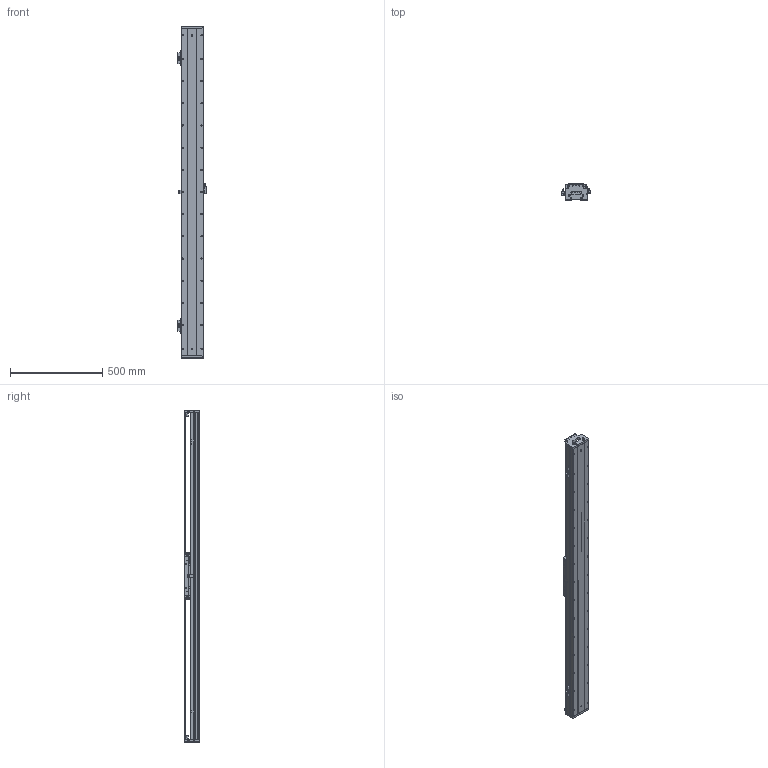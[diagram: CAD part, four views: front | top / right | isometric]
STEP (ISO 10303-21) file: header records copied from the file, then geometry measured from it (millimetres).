
FILE_DESCRIPTION (( 'STEP AP203' ), '1' );
FILE_NAME ('DKW120-B3-W060（T1440-L005-0.2）.STEP', '2021-09-02T08:25:19', ( '微软用户' ), ( '微软中国' ), 'SwSTEP 2.0', 'SolidWorks 2018', '' );
FILE_SCHEMA (( 'CONFIG_CONTROL_DESIGN' ));
Length unit declared in the file: millimetre
Products named in the file (20): EE_SX674A; DKW120 单轴模组-拉钢带组件; MSB15-DG-U; B3-W060_00; BKMA01-W060-TRL280; 06652-0001-001-00 DKW120傷啣; DKW120-B3-W060（T1440-L005-0.2）; RUS嫖掑喜; 06652-0001-004-00 DKW120嶺輸菜輸; Ru2; DKW-HXJ-JY-00 遣喳砎蝶; RUS嫖掑郪璃; 10940-0001-004-00 120詩湍裔啣; DKW119-RU-DTJ-00 RU2黍杅芛盓殤; 砎蝶猾沭; 10980-0001-003-00 嫖萇羲壽嘐隅釱; 12160-0000-003-00 DKW120詩湍嶺輸; DKW-SG-GYP-H-00 嫖萇覜茼え; 12160-0000-004-00  DKW120詩湍揤輸; DKW120-B15-T300-DZ-00 菁釱
Assembly tree (33 placements, depth 3):
  DKW120-B3-W060（T1440-L005-0.2）
    DKW120-B15-T300-DZ-00 菁釱
    MSB15-DG-U  x2
    DKW120 单轴模组-拉钢带组件
      06652-0001-001-00 DKW120傷啣  x2
      06652-0001-004-00 DKW120嶺輸菜輸  x4
      DKW-HXJ-JY-00 遣喳砎蝶  x4
      10940-0001-004-00 120詩湍裔啣
      砎蝶猾沭  x2
      12160-0000-003-00 DKW120詩湍嶺輸  x2
      12160-0000-004-00  DKW120詩湍揤輸  x2
    BKMA01-W060-TRL280
    RUS嫖掑郪璃
      RUS嫖掑喜
      Ru2
    DKW119-RU-DTJ-00 RU2黍杅芛盓殤
    10980-0001-003-00 嫖萇羲壽嘐隅釱  x2
    DKW-SG-GYP-H-00 嫖萇覜茼え
    EE_SX674A  x3
    B3-W060_00
Bounding box: 154.1 x 84 x 1796 mm (x, y, z)
Volume: 6481918 mm3; surface area: 2518459 mm2
Topology: 41 solids, 90 shells, 4200 faces, 11508 edges, 7405 vertices
Faces by surface type: plane 2227, cylinder 1378, cone 348, bspline 247
Entity records: 134938 total; most frequent: CARTESIAN_POINT 47005, ORIENTED_EDGE 18237, DIRECTION 16930, EDGE_CURVE 9159, VERTEX_POINT 6016, AXIS2_PLACEMENT_3D 5650, VECTOR 5630, LINE 5630
